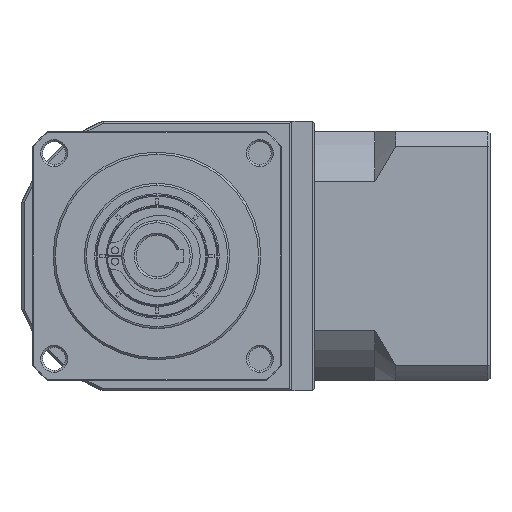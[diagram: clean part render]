
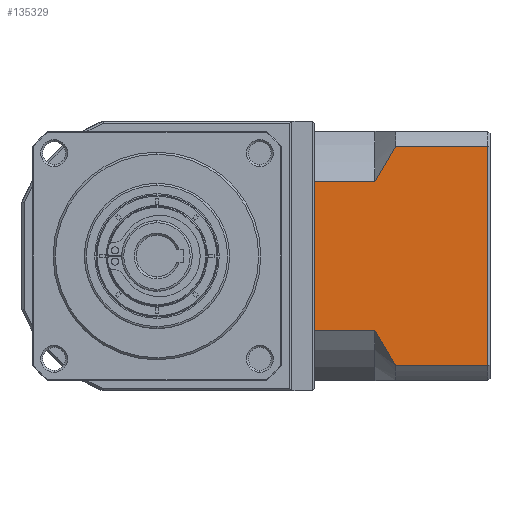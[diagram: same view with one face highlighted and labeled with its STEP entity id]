
A CAD part, left-side view. The second image highlights one B-rep face of the part: STEP entity #135329.
In plain terms, the highlighted planar face has unit normal (-1, 0, 0).
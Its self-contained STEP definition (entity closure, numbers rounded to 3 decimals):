
#15 = ORIENTED_EDGE ( 'NONE', *, *, #131045, .T. ) ;
#2108 = EDGE_CURVE ( 'NONE', #19558, #132992, #132903, .T. ) ;
#5984 = CARTESIAN_POINT ( 'NONE',  ( -17.014, -66.287, -155.188 ) ) ;
#8127 = CARTESIAN_POINT ( 'NONE',  ( -17.014, -80.787, -107.16 ) ) ;
#15462 = VECTOR ( 'NONE', #18403, 1000. ) ;
#18403 = DIRECTION ( 'NONE',  ( 0., 1., 0. ) ) ;
#18954 = ORIENTED_EDGE ( 'NONE', *, *, #52327, .T. ) ;
#19558 = VERTEX_POINT ( 'NONE', #147225 ) ;
#21060 = LINE ( 'NONE', #8127, #83237 ) ;
#21152 = VECTOR ( 'NONE', #49894, 1000. ) ;
#24668 = LINE ( 'NONE', #138125, #83161 ) ;
#30050 = LINE ( 'NONE', #5984, #33661 ) ;
#30135 = CARTESIAN_POINT ( 'NONE',  ( -17.014, -85.787, -98.73 ) ) ;
#32116 = CARTESIAN_POINT ( 'NONE',  ( -17.014, -66.287, -107.16 ) ) ;
#32170 = CARTESIAN_POINT ( 'NONE',  ( -17.014, -82.337, -146.097 ) ) ;
#32472 = EDGE_CURVE ( 'NONE', #125410, #123837, #52304, .T. ) ;
#33661 = VECTOR ( 'NONE', #37099, 1000. ) ;
#37099 = DIRECTION ( 'NONE',  ( 0., 0., -1. ) ) ;
#38536 = CARTESIAN_POINT ( 'NONE',  ( -17.014, -107.987, -151.645 ) ) ;
#39704 = VERTEX_POINT ( 'NONE', #32116 ) ;
#40190 = B_SPLINE_CURVE_WITH_KNOTS ( 'NONE', 3,
 ( #113386, #102141, #32170, #113884, #43929, #125570 ),
 .UNSPECIFIED., .F., .F.,
 ( 4, 2, 4 ),
 ( 0.1, 0.104, 0.109 ),
 .UNSPECIFIED. ) ;
#41871 = CARTESIAN_POINT ( 'NONE',  ( -17.014, -81.535, -105.708 ) ) ;
#43929 = CARTESIAN_POINT ( 'NONE',  ( -17.014, -84.885, -150.282 ) ) ;
#49894 = DIRECTION ( 'NONE',  ( 0., 0., 1. ) ) ;
#52049 = CARTESIAN_POINT ( 'NONE',  ( -17.014, -80.787, -143.215 ) ) ;
#52304 = LINE ( 'NONE', #142229, #21152 ) ;
#52327 = EDGE_CURVE ( 'NONE', #103729, #129166, #40190, .T. ) ;
#52426 = DIRECTION ( 'NONE',  ( 1., 0., 0. ) ) ;
#55038 = CARTESIAN_POINT ( 'NONE',  ( -17.014, -85.787, -151.645 ) ) ;
#57018 = VECTOR ( 'NONE', #85264, 1000. ) ;
#59208 = ORIENTED_EDGE ( 'NONE', *, *, #108156, .F. ) ;
#63486 = AXIS2_PLACEMENT_3D ( 'NONE', #122385, #52426, #134031 ) ;
#69069 = VERTEX_POINT ( 'NONE', #75693 ) ;
#70187 = EDGE_LOOP ( 'NONE', ( #74236, #98996, #139090, #90414, #59208, #15, #124039, #18954 ) ) ;
#73300 = PLANE ( 'NONE',  #63486 ) ;
#74236 = ORIENTED_EDGE ( 'NONE', *, *, #117087, .F. ) ;
#75693 = CARTESIAN_POINT ( 'NONE',  ( -17.014, -66.287, -143.215 ) ) ;
#83161 = VECTOR ( 'NONE', #149873, 1000. ) ;
#83237 = VECTOR ( 'NONE', #90027, 1000. ) ;
#85264 = DIRECTION ( 'NONE',  ( 0., -1., 0. ) ) ;
#88335 = CARTESIAN_POINT ( 'NONE',  ( -17.014, -84.014, -101.469 ) ) ;
#89551 = FACE_OUTER_BOUND ( 'NONE', #70187, .T. ) ;
#90027 = DIRECTION ( 'NONE',  ( 0., -1., 0. ) ) ;
#90414 = ORIENTED_EDGE ( 'NONE', *, *, #2108, .T. ) ;
#91737 = LINE ( 'NONE', #131655, #57018 ) ;
#98996 = ORIENTED_EDGE ( 'NONE', *, *, #32472, .T. ) ;
#100092 = CARTESIAN_POINT ( 'NONE',  ( -17.014, -84.887, -100.09 ) ) ;
#102141 = CARTESIAN_POINT ( 'NONE',  ( -17.014, -81.537, -144.672 ) ) ;
#103729 = VERTEX_POINT ( 'NONE', #52049 ) ;
#108156 = EDGE_CURVE ( 'NONE', #39704, #132992, #21060, .T. ) ;
#108822 = LINE ( 'NONE', #146584, #15462 ) ;
#111840 = CARTESIAN_POINT ( 'NONE',  ( -17.014, -82.338, -104.276 ) ) ;
#113386 = CARTESIAN_POINT ( 'NONE',  ( -17.014, -80.787, -143.215 ) ) ;
#113884 = CARTESIAN_POINT ( 'NONE',  ( -17.014, -84.012, -148.902 ) ) ;
#113899 = CARTESIAN_POINT ( 'NONE',  ( -17.014, -107.987, -98.73 ) ) ;
#117087 = EDGE_CURVE ( 'NONE', #125410, #129166, #108822, .T. ) ;
#122385 = CARTESIAN_POINT ( 'NONE',  ( -17.014, -108.487, -155.188 ) ) ;
#123576 = CARTESIAN_POINT ( 'NONE',  ( -17.014, -80.787, -107.16 ) ) ;
#123837 = VERTEX_POINT ( 'NONE', #113899 ) ;
#124039 = ORIENTED_EDGE ( 'NONE', *, *, #146237, .F. ) ;
#125410 = VERTEX_POINT ( 'NONE', #38536 ) ;
#125570 = CARTESIAN_POINT ( 'NONE',  ( -17.014, -85.787, -151.645 ) ) ;
#127606 = CARTESIAN_POINT ( 'NONE',  ( -17.014, -80.787, -107.16 ) ) ;
#129166 = VERTEX_POINT ( 'NONE', #55038 ) ;
#131045 = EDGE_CURVE ( 'NONE', #39704, #69069, #30050, .T. ) ;
#131655 = CARTESIAN_POINT ( 'NONE',  ( -17.014, -80.787, -98.73 ) ) ;
#132903 = B_SPLINE_CURVE_WITH_KNOTS ( 'NONE', 3,
 ( #30135, #100092, #88335, #111840, #41871, #123576 ),
 .UNSPECIFIED., .F., .F.,
 ( 4, 2, 4 ),
 ( 0.052, 0.057, 0.062 ),
 .UNSPECIFIED. ) ;
#132992 = VERTEX_POINT ( 'NONE', #127606 ) ;
#134031 = DIRECTION ( 'NONE',  ( 0., 1., 0. ) ) ;
#135329 = ADVANCED_FACE ( 'NONE', ( #89551 ), #73300, .F. ) ;
#138125 = CARTESIAN_POINT ( 'NONE',  ( -17.014, -80.787, -143.215 ) ) ;
#139090 = ORIENTED_EDGE ( 'NONE', *, *, #144461, .F. ) ;
#142229 = CARTESIAN_POINT ( 'NONE',  ( -17.014, -107.987, -155.188 ) ) ;
#144461 = EDGE_CURVE ( 'NONE', #19558, #123837, #91737, .T. ) ;
#146237 = EDGE_CURVE ( 'NONE', #103729, #69069, #24668, .T. ) ;
#146584 = CARTESIAN_POINT ( 'NONE',  ( -17.014, -80.787, -151.645 ) ) ;
#147225 = CARTESIAN_POINT ( 'NONE',  ( -17.014, -85.787, -98.73 ) ) ;
#149873 = DIRECTION ( 'NONE',  ( 0., 1., 0. ) ) ;
